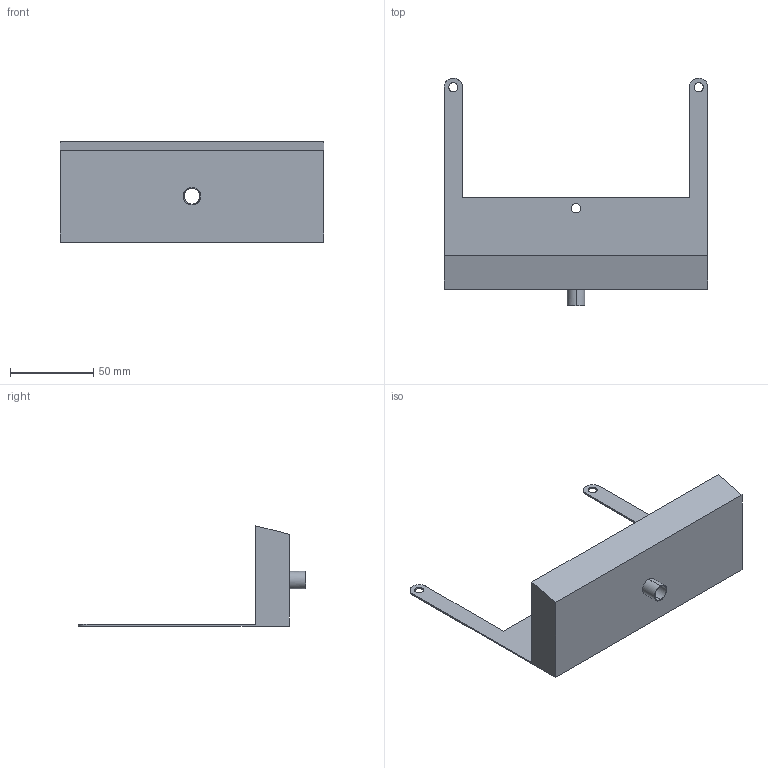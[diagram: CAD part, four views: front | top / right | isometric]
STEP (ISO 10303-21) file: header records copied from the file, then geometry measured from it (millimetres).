
FILE_DESCRIPTION(/* description */ (''),/* implementation_level */ '2;1');
FILE_NAME(/* name */ 'RC-TCU50',/* time_stamp */ '2019-08-05T14:46:57+02:00',/* author */ (''),/* organization */ (''),/* preprocessor_version */ 'ST-DEVELOPER v14',/* originating_system */ '',/* authorisation */ '');
FILE_SCHEMA (('CONFIG_CONTROL_DESIGN'));
Length unit declared in the file: millimetre
Products named in the file (1): Document
Bounding box: 158 x 136.5 x 60 mm (x, y, z)
Volume: 24012.3 mm3; surface area: 49204.7 mm2
Topology: 1 solids, 1 shells, 29 faces, 78 edges, 52 vertices
Faces by surface type: plane 15, bspline 14
Entity records: 1123 total; most frequent: CARTESIAN_POINT 545, ORIENTED_EDGE 156, EDGE_CURVE 78, VERTEX_POINT 52, B_SPLINE_CURVE_WITH_KNOTS 50, EDGE_LOOP 38, ADVANCED_FACE 29, FACE_OUTER_BOUND 29
